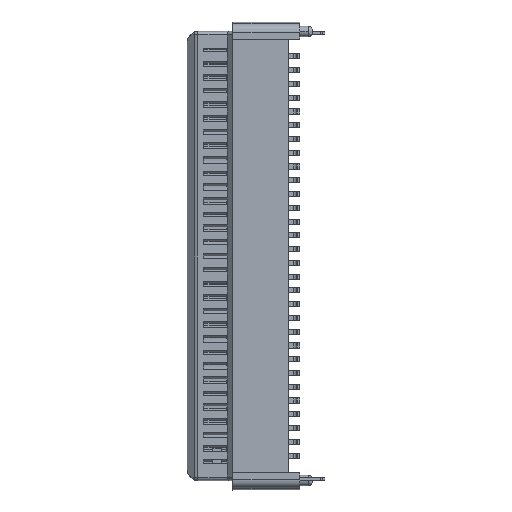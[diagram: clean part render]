
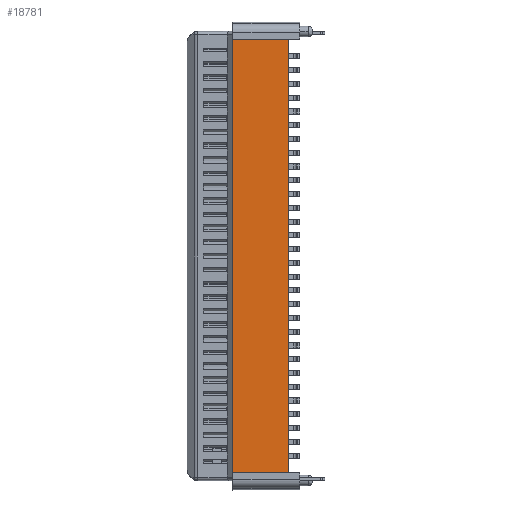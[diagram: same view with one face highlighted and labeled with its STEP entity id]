
A CAD part, left-side view. The second image highlights one B-rep face of the part: STEP entity #18781.
In plain terms, the highlighted planar face has unit normal (-1, 0, 0).
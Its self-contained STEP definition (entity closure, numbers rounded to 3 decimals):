
#934=DIRECTION('',(0.,0.,1.));
#935=VECTOR('',#934,25.2);
#936=CARTESIAN_POINT('',(-12.134,-7.359,21.839));
#937=LINE('',#936,#935);
#1018=DIRECTION('',(0.,-1.,0.));
#1019=VECTOR('',#1018,3.214);
#1020=CARTESIAN_POINT('',(-12.134,-7.359,
47.039));
#1021=LINE('',#1020,#1019);
#1213=DIRECTION('',(0.,0.,-1.));
#1214=VECTOR('',#1213,25.2);
#1215=CARTESIAN_POINT('',(-12.134,-10.573,
47.039));
#1216=LINE('',#1215,#1214);
#2248=DIRECTION('',(0.,1.,0.));
#2249=VECTOR('',#2248,3.214);
#2250=CARTESIAN_POINT('',(-12.134,-10.573,
21.839));
#2251=LINE('',#2250,#2249);
#12468=CARTESIAN_POINT('',(-12.134,-7.359,
47.039));
#12470=VERTEX_POINT('',#12468);
#12472=CARTESIAN_POINT('',(-12.134,-7.359,
21.839));
#12473=VERTEX_POINT('',#12472);
#13560=CARTESIAN_POINT('',(-12.134,-10.573,
47.039));
#13561=VERTEX_POINT('',#13560);
#13578=CARTESIAN_POINT('',(-12.134,-10.573,
21.839));
#13579=VERTEX_POINT('',#13578);
#18770=CARTESIAN_POINT('',(-12.134,-8.963,
21.589));
#18771=DIRECTION('',(-1.,0.,0.));
#18772=DIRECTION('',(0.,1.,0.));
#18773=AXIS2_PLACEMENT_3D('',#18770,#18771,#18772);
#18774=PLANE('',#18773);
#18775=ORIENTED_EDGE('',*,*,#17054,.T.);
#18776=ORIENTED_EDGE('',*,*,#17244,.T.);
#18777=ORIENTED_EDGE('',*,*,#17523,.T.);
#18778=ORIENTED_EDGE('',*,*,#18756,.T.);
#18779=EDGE_LOOP('',(#18775,#18776,#18777,#18778));
#18780=FACE_OUTER_BOUND('',#18779,.F.);
#18781=ADVANCED_FACE('',(#18780),#18774,.T.);
#17054=EDGE_CURVE('',#12473,#12470,#937,.T.);
#17244=EDGE_CURVE('',#12470,#13561,#1021,.T.);
#17523=EDGE_CURVE('',#13561,#13579,#1216,.T.);
#18756=EDGE_CURVE('',#13579,#12473,#2251,.T.);
